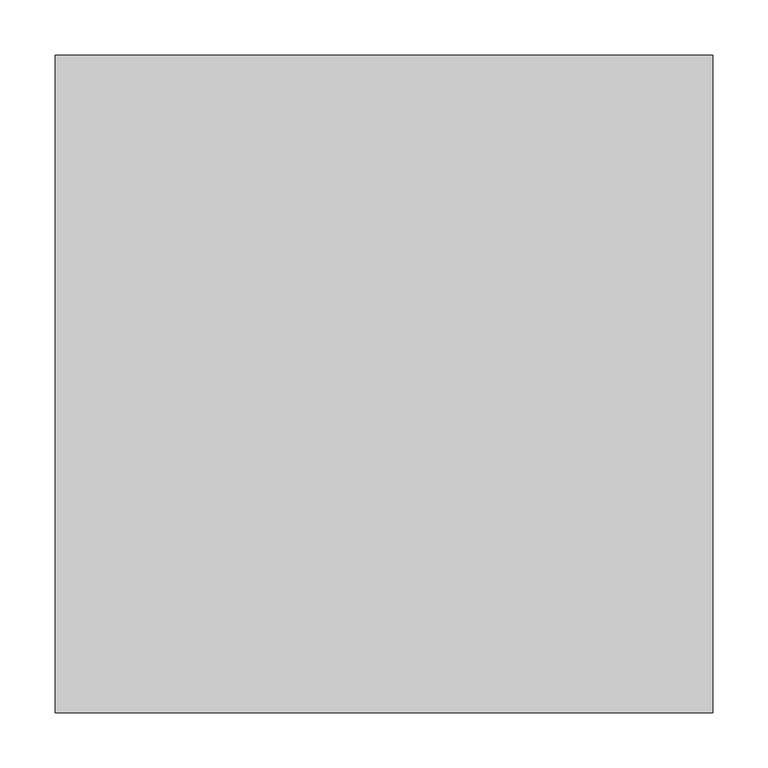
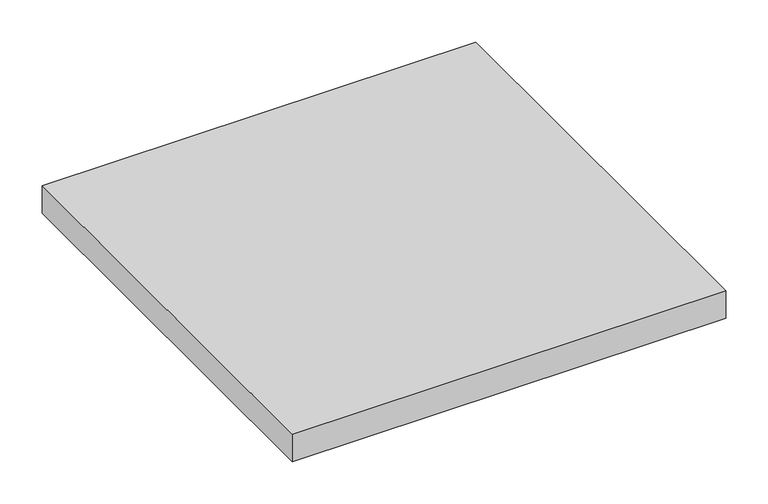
"""IFC4 building model written with IfcOpenShell, lengths in millimetres: light fixture geometry, GENILED_Светильник светодиодный_Офис Advanced : Офис Advanced 595x595x40 100Вт Опал."""

from ifc_helpers import new_model, si_unit, origin, place, context, project, spatial, faceted_brep, source, transform, mapped, element, save


def light_fixture_3ed5fcd1(model_context):
    return source(origin(), model_context, "Body", "Brep", [
        faceted_brep([(297.5, 297.5, 40.0), (-297.5, 297.5, 40.0), (-297.5, -297.5, 40.0), (297.5, -297.5, 40.0), (297.5, 297.5, 0.0), (297.5, -297.5, 0.0), (-297.5, -297.5, 0.0), (-297.5, 297.5, 0.0), (287.5, 287.5, 0.0), (-287.5, 287.5, 0.0), (-287.5, -287.5, 0.0), (287.5, -287.5, 0.0), (287.5, -287.5, 5.0), (287.5, 287.5, 5.0), (-287.5, -287.5, 5.0), (-287.5, 287.5, 5.0)], [[[0, 1, 2, 3]], [[4, 5, 6, 7], [8, 9, 10, 11]], [[1, 0, 4, 7]], [[2, 1, 7, 6]], [[3, 2, 6, 5]], [[0, 3, 5, 4]], [[8, 11, 12, 13]], [[11, 10, 14, 12]], [[10, 9, 15, 14]], [[9, 8, 13, 15]], [[13, 12, 14, 15]]]),
    ])


if __name__ == "__main__":
    model = new_model("IFC4")
    model_context = context("Model", 3, world=origin())
    ifc_project = project(units=[si_unit("LENGTHUNIT", "METRE", prefix="MILLI")], contexts=[model_context])
    site = spatial("IfcSite", under=ifc_project)
    building = spatial("IfcBuilding", under=site)
    placement = place(None, origin())
    light_fixture_shape = light_fixture_3ed5fcd1(model_context)
    element("IfcLightFixture", 1, ObjectType="GENILED_Светильник светодиодный_Офис Advanced : Офис Advanced 595x595x40 100Вт Опал", at=placement, inside=building, context=model_context, shape_type="MappedRepresentation", body=[
        mapped(light_fixture_shape, transform((0.0, 0.0, 0.0), x_axis=(1.0, 0.0, 0.0), y_axis=(0.0, 1.0, 0.0), z_axis=(0.0, 0.0, 1.0))),
    ])
    save(model, "model.ifc")
